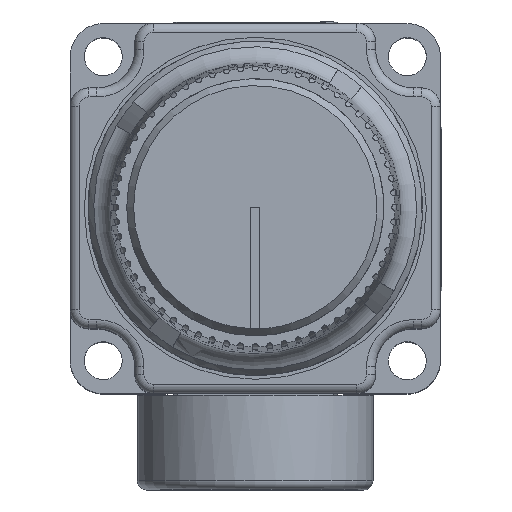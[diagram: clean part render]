
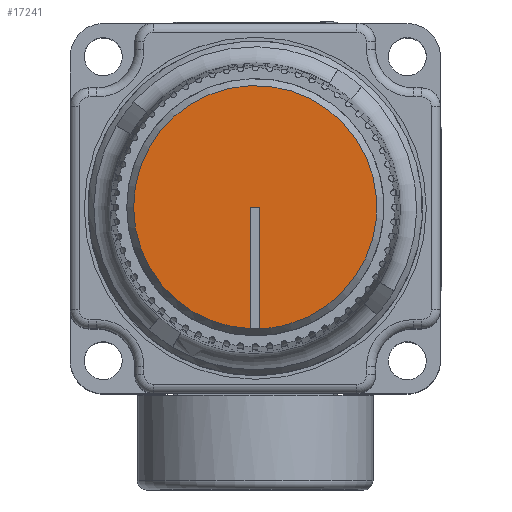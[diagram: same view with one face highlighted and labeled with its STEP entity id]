
A CAD part, top view. The second image highlights one B-rep face of the part: STEP entity #17241.
In plain terms, the highlighted planar face has unit normal (0, 0, 1).
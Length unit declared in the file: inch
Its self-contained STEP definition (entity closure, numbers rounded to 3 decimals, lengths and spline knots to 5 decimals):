
#573=PLANE('',#18844);
#1573=FACE_OUTER_BOUND('',#2577,.T.);
#2577=EDGE_LOOP('',(#13383,#13384,#13385,#13386,#13387));
#3442=CIRCLE('',#18845,0.4);
#3443=CIRCLE('',#18846,0.4);
#4745=LINE('',#31783,#5968);
#4746=LINE('',#31789,#5969);
#4747=LINE('',#31790,#5970);
#5968=VECTOR('',#22831,0.3937);
#5969=VECTOR('',#22836,0.3937);
#5970=VECTOR('',#22837,0.3937);
#7366=VERTEX_POINT('',#31781);
#7367=VERTEX_POINT('',#31782);
#7368=VERTEX_POINT('',#31784);
#7369=VERTEX_POINT('',#31786);
#7370=VERTEX_POINT('',#31788);
#9481=EDGE_CURVE('',#7366,#7367,#4745,.T.);
#9482=EDGE_CURVE('',#7367,#7368,#3442,.T.);
#9483=EDGE_CURVE('',#7368,#7369,#3443,.T.);
#9484=EDGE_CURVE('',#7369,#7370,#4746,.T.);
#9485=EDGE_CURVE('',#7370,#7366,#4747,.T.);
#13383=ORIENTED_EDGE('',*,*,#9481,.T.);
#13384=ORIENTED_EDGE('',*,*,#9482,.T.);
#13385=ORIENTED_EDGE('',*,*,#9483,.T.);
#13386=ORIENTED_EDGE('',*,*,#9484,.T.);
#13387=ORIENTED_EDGE('',*,*,#9485,.T.);
#17241=ADVANCED_FACE('',(#1573),#573,.T.);
#18844=AXIS2_PLACEMENT_3D('',#31780,#22829,#22830);
#18845=AXIS2_PLACEMENT_3D('',#31785,#22832,#22833);
#18846=AXIS2_PLACEMENT_3D('',#31787,#22834,#22835);
#22829=DIRECTION('center_axis',(0.,0.,1.));
#22830=DIRECTION('ref_axis',(1.,0.,0.));
#22831=DIRECTION('',(0.,-1.,0.));
#22832=DIRECTION('center_axis',(0.,0.,
1.));
#22833=DIRECTION('ref_axis',(0.325,0.946,0.));
#22834=DIRECTION('center_axis',(0.,0.,
1.));
#22835=DIRECTION('ref_axis',(0.325,0.946,0.));
#22836=DIRECTION('',(0.,1.,0.));
#22837=DIRECTION('',(1.,0.,0.));
#31780=CARTESIAN_POINT('Origin',(-0.4878,-0.48779,
1.82375));
#31781=CARTESIAN_POINT('',(-0.4728,-0.08768,1.82375));
#31782=CARTESIAN_POINT('',(-0.4728,-0.4874,1.82375));
#31783=CARTESIAN_POINT('',(-0.4728,-0.08768,1.82375));
#31784=CARTESIAN_POINT('',(-0.37362,-0.47104,1.82375));
#31785=CARTESIAN_POINT('Origin',(-0.4878,-0.08768,
1.82375));
#31786=CARTESIAN_POINT('',(-0.5028,-0.4874,1.82375));
#31787=CARTESIAN_POINT('Origin',(-0.4878,-0.08768,
1.82375));
#31788=CARTESIAN_POINT('',(-0.5028,-0.08768,1.82375));
#31789=CARTESIAN_POINT('',(-0.5028,-0.4874,1.82375));
#31790=CARTESIAN_POINT('',(-0.5028,-0.08768,1.82375));
